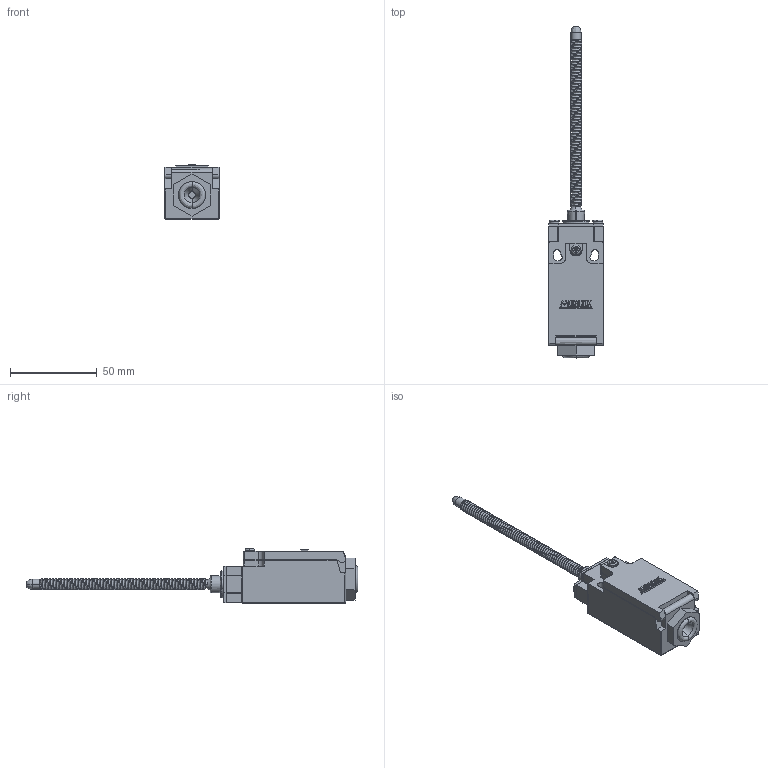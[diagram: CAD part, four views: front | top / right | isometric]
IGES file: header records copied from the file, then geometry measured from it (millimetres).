
Start section: SolidWorks IGES file using analytic representation for surfaces
Global section: file name: D:\X - Arquivos\PROEX\Empresas\P11 - METALTEX\01 - Produtos\IGES\4ª remessa\5ª etapa\FM9267.IGS; native system: SolidWorks 2012; preprocessor: SolidWorks 2012; author: Usuario; date: 180601.140017; units: millimetre
Bounding box: 31.5 x 191.9 x 31.5 mm (x, y, z)
Surface area: 17141.8 mm2 (no closed solid volume)
Topology: 0 solids, 0 shells, 345 faces, 2720 edges, 2716 vertices
Faces by surface type: bspline 277, revolution 68
